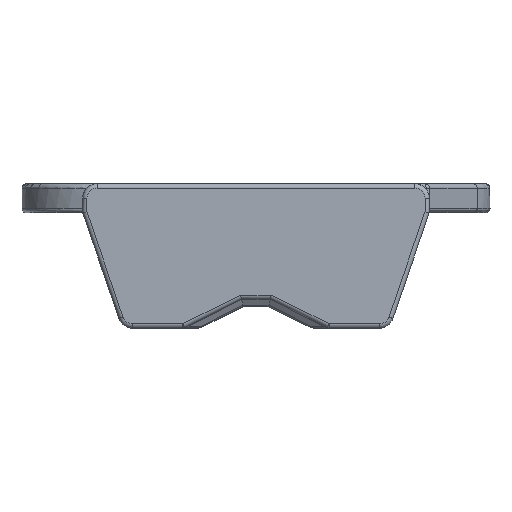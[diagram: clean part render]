
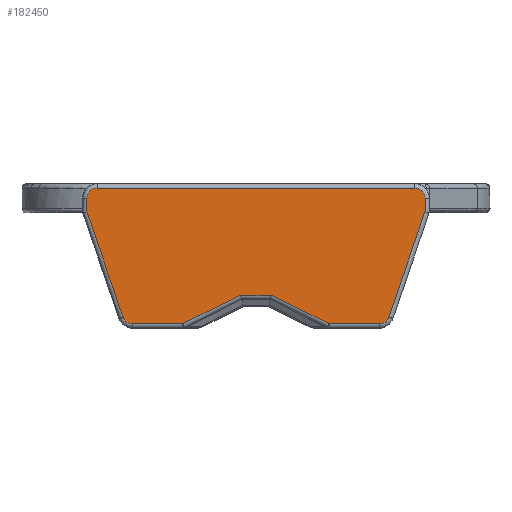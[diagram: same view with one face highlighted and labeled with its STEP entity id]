
A CAD part, left-side view. The second image highlights one B-rep face of the part: STEP entity #182450.
In plain terms, the highlighted planar face has unit normal (-1, 0, 0).
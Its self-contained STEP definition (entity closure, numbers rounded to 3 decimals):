
#154390=CARTESIAN_POINT('',(-38.55,5.071,-1.5));
#154400=VERTEX_POINT('',#154390);
#154640=CARTESIAN_POINT('',(-38.55,1.071,0.5));
#154650=VERTEX_POINT('',#154640);
#154770=CARTESIAN_POINT('',(-38.55,-7.25,4.66));
#154780=DIRECTION('',(0.,-0.894,
0.447));
#154790=VECTOR('',#154780,1.);
#154800=LINE('',#154770,#154790);
#154810=EDGE_CURVE('',#154400,#154650,#154800,.T.);
#172180=CARTESIAN_POINT('',(-38.55,-5.071,-1.5))
;
#172190=VERTEX_POINT('',#172180);
#172370=CARTESIAN_POINT('',(-38.55,-1.071,0.5))
;
#172380=VERTEX_POINT('',#172370);
#172410=CARTESIAN_POINT('',(-38.55,-7.25,-2.59))
;
#172420=DIRECTION('',(0.,0.894,
0.447));
#172430=VECTOR('',#172420,1.);
#172440=LINE('',#172410,#172430);
#172450=EDGE_CURVE('',#172190,#172380,#172440,.T.);
#172600=CARTESIAN_POINT('',(-38.55,-8.536,-1.5))
;
#172610=VERTEX_POINT('',#172600);
#172720=CARTESIAN_POINT('',(-38.55,0.,-1.5
));
#172730=DIRECTION('',(0.,-1.,0.));
#172740=VECTOR('',#172730,1.);
#172750=LINE('',#172720,#172740);
#172760=EDGE_CURVE('',#172190,#172610,#172750,.T.);
#181170=CARTESIAN_POINT('',(-38.55,-8.536,-0.8)
);
#181180=DIRECTION('',(-1.,0.,0.));
#181190=DIRECTION('',(0.,1.,0.));
#181200=AXIS2_PLACEMENT_3D('',#181170,#181180,#181190);
#181210=CIRCLE('',#181200,0.7);
#181220=CARTESIAN_POINT('',(-38.55,-9.198,-1.028))
;
#181230=VERTEX_POINT('',#181220);
#181240=EDGE_CURVE('',#172610,#181230,#181210,.T.);
#181470=CARTESIAN_POINT('',(-38.55,-11.7,6.25));
#181480=VERTEX_POINT('',#181470);
#181530=CARTESIAN_POINT('',(-38.55,-8.933,-1.8))
;
#181540=DIRECTION('',(0.,-0.325,
0.946));
#181550=VECTOR('',#181540,1.);
#181560=LINE('',#181530,#181550);
#181570=EDGE_CURVE('',#181230,#181480,#181560,.T.);
#181620=CARTESIAN_POINT('',(-38.55,-7.25,-1.8))
;
#181630=DIRECTION('',(-1.,0.,0.));
#181640=DIRECTION('',(0.,1.,0.));
#181650=AXIS2_PLACEMENT_3D('',#181620,#181630,#181640);
#181660=PLANE('',#181650);
#181670=CARTESIAN_POINT('',(-38.55,8.536,-0.8))
;
#181680=DIRECTION('',(1.,0.,0.));
#181690=DIRECTION('',(0.,-1.,0.));
#181700=AXIS2_PLACEMENT_3D('',#181670,#181680,#181690);
#181710=CIRCLE('',#181700,0.7);
#181720=CARTESIAN_POINT('',(-38.55,8.536,-1.5));
#181730=VERTEX_POINT('',#181720);
#181740=CARTESIAN_POINT('',(-38.55,9.198,-1.028));
#181750=VERTEX_POINT('',#181740);
#181760=EDGE_CURVE('',#181730,#181750,#181710,.T.);
#181770=ORIENTED_EDGE('',*,*,#181760,.F.);
#181780=CARTESIAN_POINT('',(-38.55,8.933,-1.8));
#181790=DIRECTION('',(0.,0.325,
0.946));
#181800=VECTOR('',#181790,1.);
#181810=LINE('',#181780,#181800);
#181820=CARTESIAN_POINT('',(-38.55,11.7,6.25));
#181830=VERTEX_POINT('',#181820);
#181840=EDGE_CURVE('',#181750,#181830,#181810,.T.);
#181850=ORIENTED_EDGE('',*,*,#181840,.F.);
#181860=CARTESIAN_POINT('',(-38.55,11.7,-1.8));
#181870=DIRECTION('',(0.,0.,1.));
#181880=VECTOR('',#181870,1.);
#181890=LINE('',#181860,#181880);
#181900=CARTESIAN_POINT('',(-38.55,11.7,7.2));
#181910=VERTEX_POINT('',#181900);
#181920=EDGE_CURVE('',#181830,#181910,#181890,.T.);
#181930=ORIENTED_EDGE('',*,*,#181920,.F.);
#181940=CARTESIAN_POINT('',(-38.55,11.,7.2));
#181950=DIRECTION('',(1.,0.,0.));
#181960=DIRECTION('',(0.,-1.,0.));
#181970=AXIS2_PLACEMENT_3D('',#181940,#181950,#181960);
#181980=CIRCLE('',#181970,0.7);
#181990=CARTESIAN_POINT('',(-38.55,11.,7.9));
#182000=VERTEX_POINT('',#181990);
#182010=EDGE_CURVE('',#181910,#182000,#181980,.T.);
#182020=ORIENTED_EDGE('',*,*,#182010,.F.);
#182030=CARTESIAN_POINT('',(-38.55,-7.25,7.9));
#182040=DIRECTION('',(0.,-1.,0.));
#182050=VECTOR('',#182040,1.);
#182060=LINE('',#182030,#182050);
#182070=CARTESIAN_POINT('',(-38.55,-11.,7.9));
#182080=VERTEX_POINT('',#182070);
#182090=EDGE_CURVE('',#182000,#182080,#182060,.T.);
#182100=ORIENTED_EDGE('',*,*,#182090,.F.);
#182110=CARTESIAN_POINT('',(-38.55,-11.,7.2));
#182120=DIRECTION('',(1.,0.,0.));
#182130=DIRECTION('',(0.,-1.,0.));
#182140=AXIS2_PLACEMENT_3D('',#182110,#182120,#182130);
#182150=CIRCLE('',#182140,0.7);
#182160=CARTESIAN_POINT('',(-38.55,-11.7,7.2));
#182170=VERTEX_POINT('',#182160);
#182180=EDGE_CURVE('',#182080,#182170,#182150,.T.);
#182190=ORIENTED_EDGE('',*,*,#182180,.F.);
#182200=CARTESIAN_POINT('',(-38.55,-11.7,-1.8))
;
#182210=DIRECTION('',(0.,0.,1.));
#182220=VECTOR('',#182210,1.);
#182230=LINE('',#182200,#182220);
#182240=EDGE_CURVE('',#181480,#182170,#182230,.T.);
#182250=ORIENTED_EDGE('',*,*,#182240,.T.);
#182260=ORIENTED_EDGE('',*,*,#181570,.T.);
#182270=ORIENTED_EDGE('',*,*,#181240,.T.);
#182280=ORIENTED_EDGE('',*,*,#172760,.T.);
#182290=ORIENTED_EDGE('',*,*,#172450,.F.);
#182300=CARTESIAN_POINT('',(-38.55,-7.25,0.5))
;
#182310=DIRECTION('',(0.,1.,0.));
#182320=VECTOR('',#182310,1.);
#182330=LINE('',#182300,#182320);
#182340=EDGE_CURVE('',#172380,#154650,#182330,.T.);
#182350=ORIENTED_EDGE('',*,*,#182340,.F.);
#182360=ORIENTED_EDGE('',*,*,#154810,.T.);
#182370=CARTESIAN_POINT('',(-38.55,-7.25,-1.5))
;
#182380=DIRECTION('',(0.,-1.,0.));
#182390=VECTOR('',#182380,1.);
#182400=LINE('',#182370,#182390);
#182410=EDGE_CURVE('',#181730,#154400,#182400,.T.);
#182420=ORIENTED_EDGE('',*,*,#182410,.T.);
#182430=EDGE_LOOP('',(#182420,#182360,#182350,#182290,#182280,#182270,
#182260,#182250,#182190,#182100,#182020,#181930,#181850,#181770));
#182440=FACE_OUTER_BOUND('',#182430,.T.);
#182450=ADVANCED_FACE('',(#182440),#181660,.T.);
